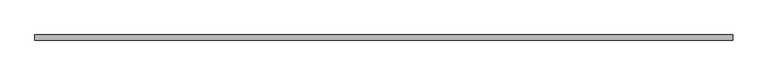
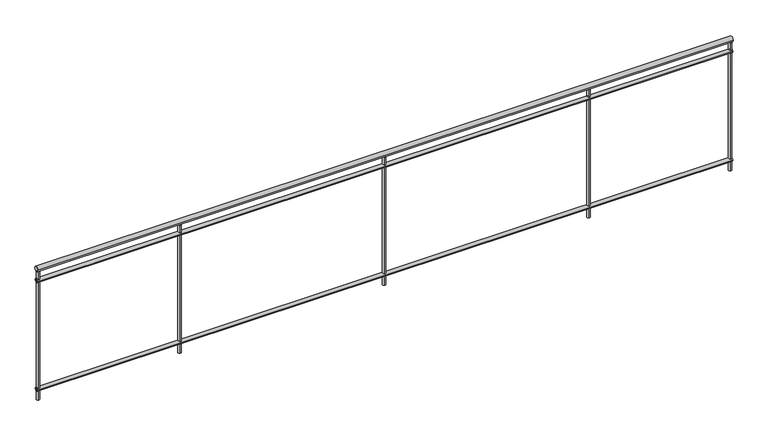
"""IFC4 building model written with IfcOpenShell, lengths in millimetres: railing geometry, バルコニー手摺."""

from ifc_helpers import new_model, si_unit, point, frame, frame_2d, origin, place, context, project, spatial, circle_curve, trimmed, segment, composite_curve, outline, extrude, source, transform, mapped, element, save


def railing_97926943(model_context):
    return source(origin(), model_context, "Body", "SweptSolid", [
        extrude(outline(composite_curve([segment(trimmed(circle_curve(frame_2d((10035.2598658, 7980.0)), 20.0), [point((10055.2598658, 7980.0))], [point((10015.2598658, 7980.0))], False, "CARTESIAN"), True, "CONTINUOUS"), segment(trimmed(circle_curve(frame_2d((10035.2598658, 7980.0)), 20.0), [point((10015.2598658, 7980.0))], [point((10055.2598658, 7980.0))], False, "CARTESIAN"), True, "CONTINUOUS")], self_intersect=False)), frame((3414.3805905, 0.0, 0.0), z_axis=(1.0, 0.0, 0.0), x_axis=(0.0, 1.0, 0.0)), (0.0, 0.0, 1.0), 5440.0),
        extrude(outline(composite_curve([segment(trimmed(circle_curve(frame_2d((10035.2598658, 7885.0)), 15.0), [point((10050.2598658, 7885.0))], [point((10020.2598658, 7885.0))], False, "CARTESIAN"), True, "CONTINUOUS"), segment(trimmed(circle_curve(frame_2d((10035.2598658, 7885.0)), 15.0), [point((10020.2598658, 7885.0))], [point((10050.2598658, 7885.0))], False, "CARTESIAN"), True, "CONTINUOUS")], self_intersect=False)), frame((3414.3805905, 0.0, 0.0), z_axis=(1.0, 0.0, 0.0), x_axis=(0.0, 1.0, 0.0)), (0.0, 0.0, 1.0), 5440.0),
        extrude(outline(composite_curve([segment(trimmed(circle_curve(frame_2d((10035.2598658, 6985.0)), 15.0), [point((10050.2598658, 6985.0))], [point((10020.2598658, 6985.0))], False, "CARTESIAN"), True, "CONTINUOUS"), segment(trimmed(circle_curve(frame_2d((10035.2598658, 6985.0)), 15.0), [point((10020.2598658, 6985.0))], [point((10050.2598658, 6985.0))], False, "CARTESIAN"), True, "CONTINUOUS")], self_intersect=False)), frame((3414.3805905, 0.0, 0.0), z_axis=(1.0, 0.0, 0.0), x_axis=(0.0, 1.0, 0.0)), (0.0, 0.0, 1.0), 5440.0),
        extrude(outline(composite_curve([segment(trimmed(circle_curve(frame_2d((7734.3805905, 10035.2598658)), 12.5), [point((7734.3805905, 10047.7598658))], [point((7734.3805905, 10022.7598658))], False, "CARTESIAN"), True, "CONTINUOUS"), segment(trimmed(circle_curve(frame_2d((7734.3805905, 10035.2598658)), 12.5), [point((7734.3805905, 10022.7598658))], [point((7734.3805905, 10047.7598658))], False, "CARTESIAN"), True, "CONTINUOUS")], self_intersect=False)), frame((0.0, 0.0, 6900.0), z_axis=(0.0, 0.0, 1.0), x_axis=(1.0, 0.0, 0.0)), (0.0, 0.0, 1.0), 1060.0),
        extrude(outline(composite_curve([segment(trimmed(circle_curve(frame_2d((6134.3805905, 10035.2598658)), 12.5), [point((6134.3805905, 10047.7598658))], [point((6134.3805905, 10022.7598658))], False, "CARTESIAN"), True, "CONTINUOUS"), segment(trimmed(circle_curve(frame_2d((6134.3805905, 10035.2598658)), 12.5), [point((6134.3805905, 10022.7598658))], [point((6134.3805905, 10047.7598658))], False, "CARTESIAN"), True, "CONTINUOUS")], self_intersect=False)), frame((0.0, 0.0, 6900.0), z_axis=(0.0, 0.0, 1.0), x_axis=(1.0, 0.0, 0.0)), (0.0, 0.0, 1.0), 1060.0),
        extrude(outline(composite_curve([segment(trimmed(circle_curve(frame_2d((4534.3805905, 10035.2598658)), 12.5), [point((4534.3805905, 10047.7598658))], [point((4534.3805905, 10022.7598658))], False, "CARTESIAN"), True, "CONTINUOUS"), segment(trimmed(circle_curve(frame_2d((4534.3805905, 10035.2598658)), 12.5), [point((4534.3805905, 10022.7598658))], [point((4534.3805905, 10047.7598658))], False, "CARTESIAN"), True, "CONTINUOUS")], self_intersect=False)), frame((0.0, 0.0, 6900.0), z_axis=(0.0, 0.0, 1.0), x_axis=(1.0, 0.0, 0.0)), (0.0, 0.0, 1.0), 1060.0),
        extrude(outline(composite_curve([segment(trimmed(circle_curve(frame_2d((8842.1805905, 10035.2598658)), 12.5), [point((8842.1805905, 10047.7598658))], [point((8842.1805905, 10022.7598658))], False, "CARTESIAN"), True, "CONTINUOUS"), segment(trimmed(circle_curve(frame_2d((8842.1805905, 10035.2598658)), 12.5), [point((8842.1805905, 10022.7598658))], [point((8842.1805905, 10047.7598658))], False, "CARTESIAN"), True, "CONTINUOUS")], self_intersect=False)), frame((0.0, 0.0, 6900.0), z_axis=(0.0, 0.0, 1.0), x_axis=(1.0, 0.0, 0.0)), (0.0, 0.0, 1.0), 1060.0),
        extrude(outline(composite_curve([segment(trimmed(circle_curve(frame_2d((3426.5805905, 10035.2598658)), 12.5), [point((3426.5805905, 10047.7598658))], [point((3426.5805905, 10022.7598658))], False, "CARTESIAN"), True, "CONTINUOUS"), segment(trimmed(circle_curve(frame_2d((3426.5805905, 10035.2598658)), 12.5), [point((3426.5805905, 10022.7598658))], [point((3426.5805905, 10047.7598658))], False, "CARTESIAN"), True, "CONTINUOUS")], self_intersect=False)), frame((0.0, 0.0, 6900.0), z_axis=(0.0, 0.0, 1.0), x_axis=(1.0, 0.0, 0.0)), (0.0, 0.0, 1.0), 1060.0),
    ])


if __name__ == "__main__":
    model = new_model("IFC4")
    model_context = context("Model", 3, world=origin())
    ifc_project = project(units=[si_unit("LENGTHUNIT", "METRE", prefix="MILLI")], contexts=[model_context])
    site = spatial("IfcSite", under=ifc_project)
    building = spatial("IfcBuilding", under=site)
    placement = place(None, origin())
    railing_shape = railing_97926943(model_context)
    element("IfcRailing", 1, ObjectType="バルコニー手摺", at=placement, inside=building, context=model_context, shape_type="MappedRepresentation", body=[
        mapped(railing_shape, transform((0.0, 0.0, 0.0), x_axis=(1.0, 0.0, 0.0), y_axis=(0.0, 1.0, 0.0), z_axis=(0.0, 0.0, 1.0))),
    ])
    save(model, "model.ifc")
